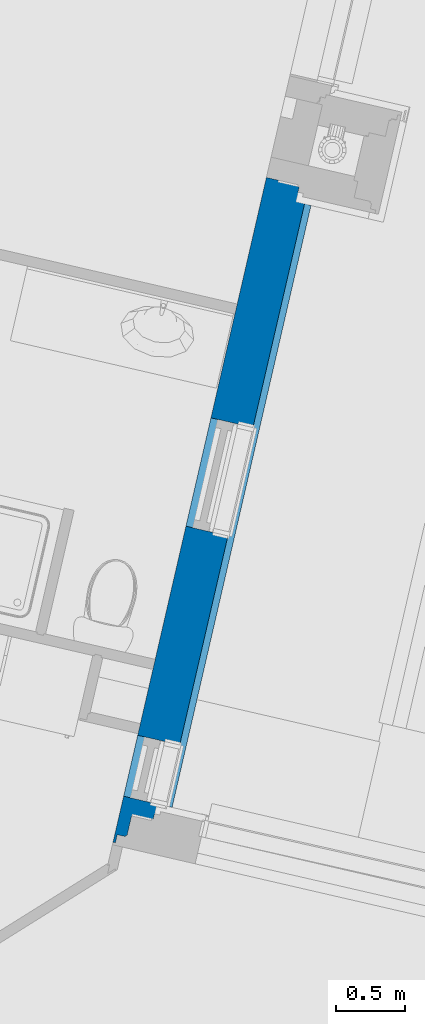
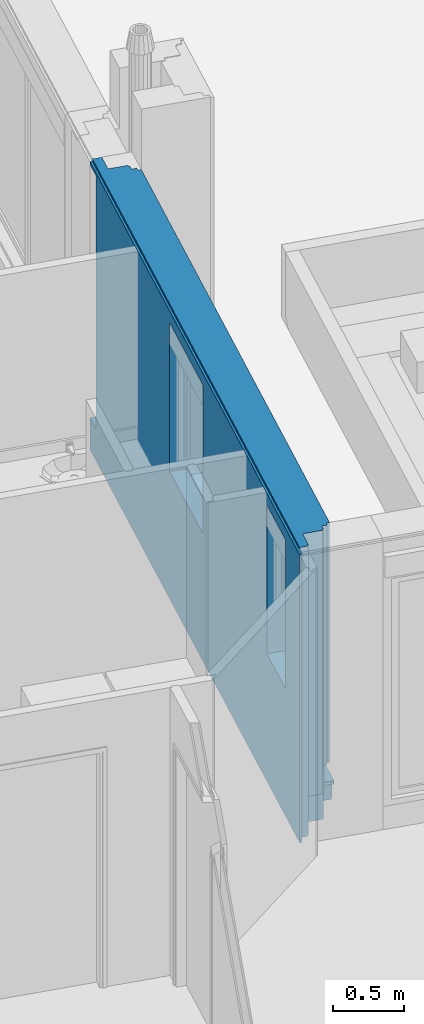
# One storey, part 11 of 47: 1 wall, 2 openings.
"""IFC2X3 building model written with IfcOpenShell, lengths in metres."""

import ifcopenshell
import ifcopenshell.guid

model = None  # the IFC model being written
_history = None  # IfcOwnerHistory: only IFC2X3 demands one
_inside = {}  # id of a spatial element -> (the spatial element, [elements in it])
_under = {}  # id of a project, library or spatial element -> (it, [spatial elements below it])
_declared = {}  # id of a project -> (the project, [libraries it declares])
_typed = {}  # id of a type object -> (the type object, [elements of that type])
_made_of = {}  # id of a material, layer set ... -> (it, [elements and type objects made of it])


def new_model(schema):
    """Start an empty IFC model of exactly this schema.

    Asked for "IFC4X3", IfcOpenShell would pick the latest addendum, in which some entities
    have other attributes; the version numbers below select the first issue.
    IFC2X3 requires an IfcOwnerHistory on every rooted entity: one is made here for all.
    """
    global model, _history
    if schema == "IFC4X3":
        model = ifcopenshell.file(schema_version=(4, 3, 0, 0))
    else:
        model = ifcopenshell.file(schema=schema)
    _inside.clear()
    _under.clear()
    _declared.clear()
    _typed.clear()
    _made_of.clear()
    _history = None
    if model.schema == "IFC2X3":
        org = make("IfcOrganization", Name="unknown")
        user = make(
            "IfcPersonAndOrganization",
            ThePerson=make("IfcPerson", FamilyName="unknown"),
            TheOrganization=org,
        )
        app = make(
            "IfcApplication",
            ApplicationDeveloper=org,
            Version="unknown",
            ApplicationFullName="unknown",
            ApplicationIdentifier="unknown",
        )
        _history = make(
            "IfcOwnerHistory",
            OwningUser=user,
            OwningApplication=app,
            ChangeAction="ADDED",
            CreationDate=0,
        )
    return model


def make(cls, **values):
    """One entity of the class cls with the attributes given. An attribute that is None is left unset."""
    return model.create_entity(
        cls, **{name: value for name, value in values.items() if value is not None}
    )


def entity(cls, *values):
    """Any entity or typed value of the class cls, its attributes in the order of the schema. None: left unset."""
    e = model.create_entity(cls)
    for i, value in enumerate(values):
        if value is not None:
            e[i] = value
    return e


def rooted(cls, **values):
    """An entity with a GlobalId (a new one), such as an element, a storey or a relation."""
    return make(cls, GlobalId=ifcopenshell.guid.new(), OwnerHistory=_history, **values)


def si_unit(unit_type, name, prefix=None):
    """IfcSIUnit, for example si_unit("LENGTHUNIT", "METRE", prefix="MILLI")."""
    return make("IfcSIUnit", UnitType=unit_type, Prefix=prefix, Name=name)


def converted_unit(unit_type, name, factor, base, dimensions=None, offset=None):
    """IfcConversionBasedUnit, such as the inch: factor (a typed value) times the base unit."""
    return make(
        "IfcConversionBasedUnit"
        if offset is None
        else "IfcConversionBasedUnitWithOffset",
        ConversionOffset=offset,
        Dimensions=None
        if dimensions is None
        else entity("IfcDimensionalExponents", *dimensions),
        UnitType=unit_type,
        Name=name,
        ConversionFactor=make(
            "IfcMeasureWithUnit", ValueComponent=factor, UnitComponent=base
        ),
    )


def derived_unit(unit_type, elements):
    """IfcDerivedUnit: a product of units, each with its exponent."""
    return make(
        "IfcDerivedUnit",
        Elements=[
            make("IfcDerivedUnitElement", Unit=unit, Exponent=power)
            for unit, power in elements
        ],
        UnitType=unit_type,
    )


def money_unit(currency):
    """IfcMonetaryUnit."""
    return make("IfcMonetaryUnit", Currency=currency)


def assignment(units):
    """IfcUnitAssignment: the units of a project."""
    return None if units is None else make("IfcUnitAssignment", Units=units)


def point(xyz):
    """IfcCartesianPoint."""
    return None if xyz is None else make("IfcCartesianPoint", Coordinates=xyz)


def direction(xyz):
    """IfcDirection."""
    return None if xyz is None else make("IfcDirection", DirectionRatios=xyz)


def frame(location, z_axis=None, x_axis=None):
    """IfcAxis2Placement3D, a coordinate frame: its origin and axes. An axis left out is left unset."""
    return make(
        "IfcAxis2Placement3D",
        Location=point(location),
        Axis=direction(z_axis),
        RefDirection=direction(x_axis),
    )


def origin_with_axes():
    """The frame at (0, 0, 0) with the z axis (0, 0, 1) and the x axis (1, 0, 0) written out."""
    return frame((0.0, 0.0, 0.0), z_axis=(0.0, 0.0, 1.0), x_axis=(1.0, 0.0, 0.0))


def place(relative_to, where):
    """IfcLocalPlacement: puts the frame where relative to a parent placement (None: the world)."""
    return make(
        "IfcLocalPlacement", PlacementRelTo=relative_to, RelativePlacement=where
    )


def context(
    kind, dimensions, precision=None, world=None, true_north=None, identifier=None
):
    """IfcGeometricRepresentationContext, for example the 3D "Model" context."""
    return make(
        "IfcGeometricRepresentationContext",
        ContextIdentifier=identifier,
        ContextType=kind,
        CoordinateSpaceDimension=dimensions,
        Precision=precision,
        WorldCoordinateSystem=world,
        TrueNorth=true_north,
    )


def subcontext(parent, identifier, kind, view, scale=None):
    """IfcGeometricRepresentationSubContext, for example "Body" below "Model"."""
    return make(
        "IfcGeometricRepresentationSubContext",
        ContextIdentifier=identifier,
        ContextType=kind,
        ParentContext=parent,
        TargetScale=scale,
        TargetView=view,
    )


def project(units=None, contexts=None):
    """IfcProject with its units and contexts."""
    return rooted(
        "IfcProject",
        Name="project",
        RepresentationContexts=contexts,
        UnitsInContext=assignment(units),
    )


def spatial(cls, under=None, at=None, **own):
    """A site, building, storey or space (cls), placed at a placement, below another one or the project."""
    s = rooted(cls, ObjectPlacement=at, **own)
    if under is not None:
        _under.setdefault(under.id(), (under, []))[1].append(s)
    return s


def faces_of(points, faces, orient=None, outer=None):
    """IfcFace entities. A face is a list of loops; a loop is a list of indices into points, from 0.

    orient and outer hold one flag for each loop. By default every Orientation is true, the
    first loop of a face is its IfcFaceOuterBound and the others are IfcFaceBound.
    """
    made = []
    for i, loops in enumerate(faces):
        bounds = []
        for j, loop in enumerate(loops):
            is_outer = j == 0 if outer is None else outer[i][j]
            bounds.append(
                make(
                    "IfcFaceOuterBound" if is_outer else "IfcFaceBound",
                    Bound=make("IfcPolyLoop", Polygon=[points[k] for k in loop]),
                    Orientation=True if orient is None else orient[i][j],
                )
            )
        made.append(make("IfcFace", Bounds=bounds))
    return made


def faceted_brep(points, faces, orient=None, outer=None, voids=None):
    """IfcFacetedBrep: a solid bounded by flat faces; with voids (closed shells), ...WithVoids."""
    shared = [point(p) for p in points]
    hull = make("IfcClosedShell", CfsFaces=faces_of(shared, faces, orient, outer))
    if voids is None:
        return make("IfcFacetedBrep", Outer=hull)
    return make(
        "IfcFacetedBrepWithVoids",
        Outer=hull,
        Voids=[
            make(cls, CfsFaces=faces_of(shared, fs, o, b)) for cls, fs, o, b in voids
        ],
    )


def shape(context_of_items, identifier, shape_type, items):
    """IfcShapeRepresentation: the items that make up one representation, for example the "Body"."""
    return make(
        "IfcShapeRepresentation",
        ContextOfItems=context_of_items,
        RepresentationIdentifier=identifier,
        RepresentationType=shape_type,
        Items=items,
    )


def material(Name=None, Category=None):
    """IfcMaterial."""
    return make("IfcMaterial", Name=Name, Category=Category)


def material_list(materials):
    """IfcMaterialList."""
    return make("IfcMaterialList", Materials=materials)


def made_of(thing, what):
    """Note that an element or type object is made of a material, layer set ...; save() writes the relation."""
    if what is not None:
        _made_of.setdefault(what.id(), (what, []))[1].append(thing)
    return thing


def type_object(cls, material=None, **own):
    """A type object (cls), such as IfcWallType, which elements share."""
    return made_of(rooted(cls, **own), material)


def element(
    cls,
    number,
    at=None,
    inside=None,
    cuts=None,
    type_object=None,
    material=None,
    context=None,
    identifier="Body",
    shape_type=None,
    held_by="IfcProductDefinitionShape",
    body=None,
    shapes=None,
    **own,
):
    """One element of the class cls, such as IfcWall. Its Tag is "e" and its number.

    at: its placement. inside: the storey or other place that contains it. cuts: it is an
    opening in that element (IfcRelVoidsElement). A single representation is given by context,
    identifier, shape_type and body (its items); several are given by shapes. held_by: the class
    of the entity that holds the representations. save() writes the other relations.
    """
    e = rooted(cls, Tag="e%d" % number, ObjectPlacement=at, **own)
    if body is not None:
        shapes = [shape(context, identifier, shape_type, body)]
    if shapes is not None:
        e.Representation = make(held_by, Representations=shapes)
    if inside is not None:
        _inside.setdefault(inside.id(), (inside, []))[1].append(e)
    if cuts is not None:
        rooted(
            "IfcRelVoidsElement", RelatingBuildingElement=cuts, RelatedOpeningElement=e
        )
    if type_object is not None:
        _typed.setdefault(type_object.id(), (type_object, []))[1].append(e)
    return made_of(e, material)


def aggregate(whole, parts):
    """IfcRelAggregates: a whole, such as a stair, and the parts it consists of."""
    return rooted("IfcRelAggregates", RelatingObject=whole, RelatedObjects=parts)


def save(model, path):
    """Write the relations noted so far, then the file.

    IfcRelAggregates (storeys below a building ...), IfcRelContainedInSpatialStructure (elements
    in a storey), IfcRelDefinesByType, IfcRelAssociatesMaterial and IfcRelDeclares: one each for
    every whole, place, type object, material and project.
    """
    for whole, parts in _under.values():
        aggregate(whole, parts)
    for where, things in _inside.values():
        rooted(
            "IfcRelContainedInSpatialStructure",
            RelatedElements=things,
            RelatingStructure=where,
        )
    for kind, things in _typed.values():
        rooted("IfcRelDefinesByType", RelatedObjects=things, RelatingType=kind)
    for what, things in _made_of.values():
        rooted("IfcRelAssociatesMaterial", RelatedObjects=things, RelatingMaterial=what)
    for by, libraries in _declared.values():
        rooted("IfcRelDeclares", RelatingContext=by, RelatedDefinitions=libraries)
    model.write(path)


model = new_model("IFC2X3")

# Units and contexts
model_context = context("Model", 3, precision=1e-05, world=origin_with_axes(), true_north=direction((0.0, 1.0)))
body_context = subcontext(model_context, "Body", "Model", "MODEL_VIEW")
ifc_project = project(units=[si_unit("LENGTHUNIT", "METRE"), si_unit("AREAUNIT", "SQUARE_METRE"), si_unit("VOLUMEUNIT", "CUBIC_METRE"), converted_unit("PLANEANGLEUNIT", "DEGREE", entity("IfcPlaneAngleMeasure", 0.0174532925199), si_unit("PLANEANGLEUNIT", "RADIAN"), dimensions=[0, 0, 0, 0, 0, 0, 0]), si_unit("SOLIDANGLEUNIT", "STERADIAN"), money_unit("EUR"), converted_unit("TIMEUNIT", "Year", entity("IfcTimeMeasure", 31556926.0), si_unit("TIMEUNIT", "SECOND"), dimensions=[0, 0, 1, 0, 0, 0, 0]), si_unit("MASSUNIT", "GRAM", prefix="KILO"), si_unit("THERMODYNAMICTEMPERATUREUNIT", "DEGREE_CELSIUS"), si_unit("LUMINOUSINTENSITYUNIT", "LUMEN"), si_unit("ENERGYUNIT", "JOULE", prefix="MEGA"), derived_unit("THERMALCONDUCTANCEUNIT", [(si_unit("POWERUNIT", "WATT"), 1), (si_unit("LENGTHUNIT", "METRE"), -1), (si_unit("THERMODYNAMICTEMPERATUREUNIT", "KELVIN"), -1)]), derived_unit("SPECIFICHEATCAPACITYUNIT", [(si_unit("ENERGYUNIT", "JOULE"), 1), (si_unit("MASSUNIT", "GRAM", prefix="KILO"), -1), (si_unit("THERMODYNAMICTEMPERATUREUNIT", "KELVIN"), -1)]), derived_unit("MASSDENSITYUNIT", [(si_unit("MASSUNIT", "GRAM", prefix="KILO"), 1), (si_unit("VOLUMEUNIT", "CUBIC_METRE"), -1)])], contexts=[model_context])

# Site, building, storey
site_placement = place(None, origin_with_axes())
site = spatial("IfcSite", under=ifc_project, at=site_placement, Name="Site", CompositionType="ELEMENT")
building_placement = place(site_placement, origin_with_axes())
building = spatial("IfcBuilding", under=site, at=building_placement, Name="Bâtiment", CompositionType="ELEMENT")
storey_placement = place(building_placement, frame((0.0, 0.0, 10.88), z_axis=(0.0, 0.0, 1.0), x_axis=(1.0, 0.0, 0.0)))
storey = spatial("IfcBuildingStorey", under=building, at=storey_placement, Name="R+4", CompositionType="ELEMENT", Elevation=10.88)

# Wall, openings
ifc_material_1 = material(Name="Métal - Aluminium")
ifc_material_2 = material(Name="Etanchéité - Bitume")
ifc_material_3 = material(Name="Isolation - Polyuréthane (extérieur)")
ifc_material_4 = material(Name="Finition ext - Bardage bois")
ifc_material_5 = material(Name="Bois - Lattage")
ifc_material_6 = material(Name="Bois - OSB 02")
ifc_material_7 = material(Name="Béton")
ifc_material_8 = material(Name="Isolation - Laine de verre")
ifc_material_9 = material(Name="Bois - Massif 01")
ifc_material_10 = material(Name="Etanchéité - Pare-vapeur")
ifc_material_11 = material(Name="Finition int - Plaque de plâtre")
ifc_material_list = material_list([ifc_material_1, ifc_material_2, ifc_material_3, ifc_material_4, ifc_material_5, ifc_material_6, ifc_material_7, ifc_material_8, ifc_material_9, ifc_material_9, ifc_material_10, ifc_material_8, ifc_material_11])
wall_type = type_object("IfcWallType", Name="Mur ossature Bois avec talon béton 358 x 2500", PredefinedType="ELEMENTEDWALL")
wall_placement = place(storey_placement, frame((-13.1674751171, -3.57101236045, 0.02), z_axis=(0.0, 0.0, 1.0), x_axis=(-0.224876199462, -0.974387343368, 0.0)))
wall = element("IfcWall", 1, at=wall_placement, inside=storey, type_object=wall_type, material=ifc_material_list, Name="M_Ext-009", ObjectType="ELEMENTEDWALL", context=body_context, shape_type="Brep", body=[
    faceted_brep([(4.60014335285, -0.065, 0.435), (4.60014335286, -0.06, 0.435), (-0.0599999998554, -0.06, 0.435), (-0.0599999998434, -0.065, 0.435), (4.60014335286, -0.06, 0.275), (4.60014335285, -0.065, 0.275), (4.60014335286, -0.06, 0.235), (4.49214335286, -0.06, 0.235), (0.0480000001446, -0.06, 0.2350000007), (-0.0599999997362, -0.06, 0.2350000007), (-0.0599999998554, -0.06, 0.275), (-0.0599999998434, -0.065, 0.275), (-0.0599999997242, -0.065, 0.2350000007), (0.0480000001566, -0.065, 0.2350000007), (0.0480000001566, -0.065, 0.22999999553), (4.49214335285, -0.065, 0.23), (4.49214335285, -0.065, 0.235), (4.60014335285, -0.065, 0.235), (4.4921433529, 0.048, 0.235), (0.0479999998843, 0.048, 0.2350000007), (0.0479999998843, 0.048, 0.22999999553), (0.0479999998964, 0.043, 0.22999999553), (0.0479999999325, 0.0279999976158, 0.22999999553), (4.49214335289, 0.0279999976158, 0.23), (4.4921433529, 0.048, 0.23), (4.49214335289, 0.043, 0.23), (4.4921433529, 0.048, 0.2), (0.0479999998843, 0.048, 0.2), (0.0479999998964, 0.043, 0.2), (4.49214335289, 0.043, 0.2)], [[[0, 1, 2, 3]], [[4, 1, 0, 5]], [[1, 4, 6, 7, 8, 9, 10, 2]], [[3, 2, 10, 11]], [[5, 0, 3, 11, 12, 13, 14, 15, 16, 17]], [[4, 5, 17, 6]], [[7, 6, 17, 16]], [[7, 18, 19, 8]], [[9, 8, 13, 12]], [[11, 10, 9, 12]], [[8, 19, 20, 21, 22, 14, 13]], [[23, 15, 14, 22]], [[24, 18, 7, 16, 15, 23, 25]], [[18, 24, 26, 27, 20, 19]], [[21, 20, 27, 28]], [[25, 23, 22, 21]], [[24, 25, 29, 26]], [[26, 29, 28, 27]], [[29, 25, 21, 28]]]),
    faceted_brep([(4.51214335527, 0.0279999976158, 0.109999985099), (0.0279999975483, 0.0279999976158, 0.109999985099), (0.0279999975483, 0.0279999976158, 0.230000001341), (4.51214335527, 0.0279999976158, 0.230000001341), (0.0279999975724, 0.0180000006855, 0.109999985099), (4.51214335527, 0.0180000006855, 0.109999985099), (0.0279999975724, 0.0180000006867, 0.230000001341), (4.51214335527, 0.0180000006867, 0.230000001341)], [[[0, 1, 2, 3]], [[4, 1, 0, 5]], [[1, 4, 6, 2]], [[6, 7, 3, 2]], [[5, 0, 3, 7]], [[4, 5, 7, 6]]]),
    faceted_brep([(4.5221433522, 0.0180000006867, 0.0999999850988), (0.0180000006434, 0.0180000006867, 0.0999999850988), (0.0180000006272, 0.0180000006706, 0.230000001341), (4.52214335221, 0.0180000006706, 0.230000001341), (0.0180000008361, -0.0619999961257, 0.0999999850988), (4.52214335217, -0.0619999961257, 0.0999999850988), (0.0180000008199, -0.0619999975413, 0.230000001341), (4.52214335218, -0.0619999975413, 0.230000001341)], [[[0, 1, 2, 3]], [[4, 1, 0, 5]], [[1, 4, 6, 2]], [[6, 7, 3, 2]], [[5, 0, 3, 7]], [[4, 5, 7, 6]]]),
    faceted_brep([(1.69817306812, -0.025, 1.1), (1.69817306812, -0.025, 1.04), (1.69817306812, 0.0, 1.04), (1.69817306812, 0.0, 1.1), (1.69817306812, 0.0, 2.2), (1.69817306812, -0.025, 2.2), (4.54014335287, -0.025, 2.5), (0.0, -0.025, 2.5), (0.0, -0.025, 0.435), (4.54014335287, -0.025, 0.435), (4.04214336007, -0.025, 1.04), (4.04214336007, -0.025, 1.1), (4.04214336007, -0.025, 2.2), (4.49214336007, -0.025, 2.2), (4.49214336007, -0.025, 1.1), (4.49214336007, -0.025, 1.04), (2.49817306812, -0.025, 2.2), (2.49817306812, -0.025, 1.1), (2.49817306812, -0.025, 1.04), (2.49817306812, 0.0, 1.04), (4.54014335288, 0.0, 0.435), (0.0, 0.0, 0.435), (0.0, 0.0, 2.5), (4.54014335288, 0.0, 2.5), (4.49214336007, 0.0, 1.04), (4.49214336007, 0.0, 1.1), (4.49214336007, 0.0, 2.2), (4.04214336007, 0.0, 2.2), (4.04214336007, 0.0, 1.1), (4.04214336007, 0.0, 1.04), (2.49817306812, 0.0, 1.1), (2.49817306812, 0.0, 2.2)], [[[0, 1, 2, 3, 4, 5]], [[6, 7, 8, 9], [10, 11, 12, 13, 14, 15], [1, 0, 5, 16, 17, 18]], [[19, 2, 1, 18]], [[20, 21, 22, 23], [24, 25, 26, 27, 28, 29], [19, 30, 31, 4, 3, 2]], [[31, 16, 5, 4]], [[6, 23, 22, 7]], [[22, 21, 8, 7]], [[20, 9, 8, 21]], [[23, 6, 9, 20]], [[11, 10, 29, 28, 27, 12]], [[12, 27, 26, 13]], [[25, 24, 15, 14, 13, 26]], [[10, 15, 24, 29]], [[30, 19, 18, 17, 16, 31]]]),
    faceted_brep([(1.69817306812, -0.0649999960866, 1.1), (1.69817306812, -0.0649999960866, 1.04), (1.69817306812, -0.024999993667, 1.04), (1.69817306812, -0.024999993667, 1.1), (1.69817306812, -0.024999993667, 2.2), (1.69817306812, -0.0649999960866, 2.2), (4.56514334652, -0.0649999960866, 2.5), (-0.0249999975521, -0.0649999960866, 2.5), (-0.0250000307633, -0.0649999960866, 0.434999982), (4.56514334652, -0.0649999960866, 0.435000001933), (4.04214336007, -0.0649999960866, 1.04), (4.04214336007, -0.0649999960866, 1.1), (4.04214336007, -0.0649999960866, 2.2), (4.49214336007, -0.0649999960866, 2.2), (4.49214336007, -0.0649999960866, 1.1), (4.49214336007, -0.0649999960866, 1.04), (2.49817306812, -0.0649999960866, 2.2), (2.49817306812, -0.0649999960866, 1.1), (2.49817306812, -0.0649999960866, 1.04), (2.49817306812, -0.024999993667, 1.04), (4.56514334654, -0.024999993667, 0.435000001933), (-0.0250000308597, -0.024999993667, 0.434999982), (-0.0249999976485, -0.024999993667, 2.5), (4.56514334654, -0.024999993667, 2.5), (4.49214336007, -0.024999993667, 1.04), (4.49214336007, -0.024999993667, 1.1), (4.49214336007, -0.024999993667, 2.2), (4.04214336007, -0.024999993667, 2.2), (4.04214336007, -0.024999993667, 1.1), (4.04214336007, -0.024999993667, 1.04), (2.49817306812, -0.024999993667, 1.1), (2.49817306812, -0.024999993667, 2.2), (-0.0250000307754, -0.0600000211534, 0.434999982), (4.56514334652, -0.0600000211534, 0.435000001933)], [[[0, 1, 2, 3, 4, 5]], [[6, 7, 8, 9], [10, 11, 12, 13, 14, 15], [1, 0, 5, 16, 17, 18]], [[19, 2, 1, 18]], [[20, 21, 22, 23], [24, 25, 26, 27, 28, 29], [19, 30, 31, 4, 3, 2]], [[31, 16, 5, 4]], [[6, 23, 22, 7]], [[21, 32, 8, 7, 22]], [[8, 32, 33, 9]], [[33, 20, 23, 6, 9]], [[11, 10, 29, 28, 27, 12]], [[12, 27, 26, 13]], [[25, 24, 15, 14, 13, 26]], [[10, 15, 24, 29]], [[30, 19, 18, 17, 16, 31]], [[32, 21, 20, 33]]]),
    faceted_brep([(1.69817306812, -0.0770000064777, 1.1), (1.69817306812, -0.0770000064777, 1.04), (1.69817306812, -0.065000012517, 1.04), (1.69817306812, -0.065000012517, 1.1), (1.69817306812, -0.065000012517, 2.2), (1.69817306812, -0.0770000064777, 2.2), (-0.0650000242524, -0.0770000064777, 0.22999999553), (4.60514336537, -0.0770000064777, 0.230000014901), (4.60514336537, -0.0770000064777, 2.5), (-0.0649999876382, -0.0770000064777, 2.5), (4.04214336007, -0.0770000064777, 1.04), (4.04214336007, -0.0770000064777, 1.1), (4.04214336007, -0.0770000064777, 2.2), (4.49214336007, -0.0770000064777, 2.2), (4.49214336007, -0.0770000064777, 1.1), (4.49214336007, -0.0770000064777, 1.04), (2.49817306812, -0.0770000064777, 2.2), (2.49817306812, -0.0770000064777, 1.1), (2.49817306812, -0.0770000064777, 1.04), (2.49817306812, -0.065000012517, 1.04), (4.60514336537, -0.065000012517, 0.230000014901), (-0.0650000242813, -0.065000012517, 0.22999999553), (-0.0649999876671, -0.065000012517, 2.5), (4.60514336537, -0.065000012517, 2.5), (4.49214336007, -0.065000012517, 1.04), (4.49214336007, -0.065000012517, 1.1), (4.49214336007, -0.065000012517, 2.2), (4.04214336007, -0.065000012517, 2.2), (4.04214336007, -0.065000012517, 1.1), (4.04214336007, -0.065000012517, 1.04), (2.49817306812, -0.065000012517, 1.1), (2.49817306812, -0.065000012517, 2.2)], [[[0, 1, 2, 3, 4, 5]], [[6, 7, 8, 9], [10, 11, 12, 13, 14, 15], [1, 0, 5, 16, 17, 18]], [[19, 2, 1, 18]], [[20, 21, 22, 23], [24, 25, 26, 27, 28, 29], [19, 30, 31, 4, 3, 2]], [[31, 16, 5, 4]], [[20, 7, 6, 21]], [[23, 8, 7, 20]], [[8, 23, 22, 9]], [[9, 22, 21, 6]], [[11, 10, 29, 28, 27, 12]], [[12, 27, 26, 13]], [[25, 24, 15, 14, 13, 26]], [[10, 15, 24, 29]], [[30, 19, 18, 17, 16, 31]]]),
    faceted_brep([(-0.0619999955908, -0.222000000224, 0.23), (4.60214334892, -0.222000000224, 0.23), (4.60214334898, -0.0619999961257, 0.23), (-0.0619999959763, -0.0619999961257, 0.23), (4.60214334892, -0.222000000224, 0.0), (-0.0619999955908, -0.222000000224, 0.0), (4.60214334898, -0.0619999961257, 0.0), (-0.0619999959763, -0.0619999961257, 0.0)], [[[0, 1, 2, 3]], [[4, 1, 0, 5]], [[6, 2, 1, 4]], [[3, 2, 6, 7]], [[5, 0, 3, 7]], [[7, 6, 4, 5]]]),
    faceted_brep([(1.69817306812, -0.183, 1.1), (1.69817306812, -0.183, 1.04), (1.69817306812, -0.077, 1.04), (1.69817306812, -0.077, 1.1), (1.69817306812, -0.077, 2.2), (1.69817306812, -0.112, 2.2), (1.69817306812, -0.112, 2.38), (1.69817306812, -0.221999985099, 2.38), (1.69817306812, -0.221999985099, 2.2), (1.69817306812, -0.221999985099, 1.1), (2.49817306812, -0.183, 1.1), (2.49817306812, -0.183, 1.04), (2.49817306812, -0.077, 1.04), (4.61714335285, -0.077, 0.275), (-0.0769999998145, -0.077, 0.275), (-0.0769999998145, -0.077, 2.45499997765), (4.61714335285, -0.077, 2.45499997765), (4.49214336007, -0.077, 1.04), (4.49214336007, -0.077, 1.1), (4.49214336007, -0.077, 2.2), (4.04214336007, -0.077, 2.2), (4.04214336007, -0.077, 1.1), (4.04214336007, -0.077, 1.04), (2.49817306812, -0.077, 1.1), (2.49817306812, -0.077, 2.2), (2.49817306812, -0.112, 2.2), (2.49817306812, -0.112, 2.38), (2.49817306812, -0.221999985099, 2.38), (4.61714335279, -0.221999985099, 2.45499997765), (-0.0769999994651, -0.221999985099, 2.45499997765), (-0.0769999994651, -0.221999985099, 0.275), (4.61714335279, -0.221999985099, 0.275), (4.04214336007, -0.221999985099, 1.1), (4.04214336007, -0.221999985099, 2.2), (4.04214336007, -0.221999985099, 2.38), (4.49214336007, -0.221999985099, 2.38), (4.49214336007, -0.221999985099, 2.2), (4.49214336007, -0.221999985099, 1.1), (2.49817306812, -0.221999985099, 2.2), (2.49817306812, -0.221999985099, 1.1), (4.49214336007, -0.112, 2.2), (4.49214336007, -0.183, 1.04), (4.49214336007, -0.183, 1.1), (4.49214336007, -0.112, 2.38), (4.04214336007, -0.112, 2.2), (4.04214336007, -0.183, 1.1), (4.04214336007, -0.183, 1.04), (4.04214336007, -0.112, 2.38)], [[[0, 1, 2, 3, 4, 5, 6, 7, 8, 9]], [[0, 10, 11, 1]], [[12, 2, 1, 11]], [[13, 14, 15, 16], [17, 18, 19, 20, 21, 22], [12, 23, 24, 4, 3, 2]], [[5, 4, 24, 25]], [[25, 26, 6, 5]], [[7, 6, 26, 27]], [[28, 29, 30, 31], [32, 33, 34, 35, 36, 37], [9, 8, 7, 27, 38, 39]], [[10, 0, 9, 39]], [[23, 12, 11, 10, 39, 38, 27, 26, 25, 24]], [[13, 31, 30, 14]], [[29, 15, 14, 30]], [[28, 16, 15, 29]], [[16, 28, 31, 13]], [[40, 19, 18, 17, 41, 42, 37, 36, 35, 43]], [[44, 20, 19, 40]], [[33, 32, 45, 46, 22, 21, 20, 44, 47, 34]], [[17, 22, 46, 41]], [[34, 47, 43, 35]], [[42, 45, 32, 37]], [[45, 42, 41, 46]], [[40, 43, 47, 44]]]),
    faceted_brep([(4.61714335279, -0.222, 0.275), (4.61714335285, -0.077, 0.275), (-0.0769999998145, -0.077, 0.275), (-0.0769999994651, -0.222, 0.275), (4.61714335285, -0.077, 0.23), (4.61714335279, -0.222, 0.23), (-0.0769999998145, -0.077, 0.23), (-0.0769999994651, -0.222, 0.23)], [[[0, 1, 2, 3]], [[4, 1, 0, 5]], [[1, 4, 6, 2]], [[3, 2, 6, 7]], [[5, 0, 3, 7]], [[4, 5, 7, 6]]]),
    faceted_brep([(4.61714335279, -0.222, 2.5), (4.61714335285, -0.077, 2.5), (-0.0769999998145, -0.077, 2.5), (-0.0769999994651, -0.222, 2.5), (4.61714335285, -0.077, 2.455), (4.61714335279, -0.222, 2.455), (-0.0769999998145, -0.077, 2.45499997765), (-0.0769999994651, -0.222, 2.45499997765)], [[[0, 1, 2, 3]], [[4, 1, 0, 5]], [[1, 4, 6, 2]], [[3, 2, 6, 7]], [[5, 0, 3, 7]], [[4, 5, 7, 6]]]),
    faceted_brep([(-0.0769999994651, -0.221999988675, 2.45499997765), (-0.226999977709, -0.221999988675, 2.45499997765), (-0.226999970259, -0.221999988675, 2.5), (4.76214334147, -0.221999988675, 2.5), (4.76214334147, -0.221999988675, 0.0), (-0.221999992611, -0.221999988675, 0.0), (-0.221999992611, -0.221999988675, 0.229999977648), (-0.226999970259, -0.221999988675, 0.229999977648), (-0.226999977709, -0.221999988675, 0.275), (-0.0769999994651, -0.221999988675, 0.275), (4.49214336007, -0.221999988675, 2.2), (4.49214336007, -0.221999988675, 2.38), (4.04214336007, -0.221999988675, 2.38), (4.04214336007, -0.221999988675, 2.2), (4.04214336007, -0.221999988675, 1.1), (4.49214336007, -0.221999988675, 1.1), (2.49817306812, -0.221999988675, 2.2), (2.49817306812, -0.221999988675, 2.38), (1.69817306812, -0.221999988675, 2.38), (1.69817306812, -0.221999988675, 2.2), (1.69817306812, -0.221999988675, 1.1), (2.49817306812, -0.221999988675, 1.1), (-0.076999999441, -0.232000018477, 2.45499997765), (-0.226999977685, -0.232000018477, 2.45499997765), (-0.226999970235, -0.232000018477, 2.5), (4.76214334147, -0.232000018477, 2.5), (4.76214334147, -0.232000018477, 0.0), (-0.221999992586, -0.232000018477, 0.0), (-0.221999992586, -0.232000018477, 0.229999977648), (-0.226999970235, -0.232000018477, 0.229999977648), (-0.226999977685, -0.232000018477, 0.275), (-0.076999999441, -0.232000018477, 0.275), (4.49214336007, -0.232000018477, 2.2), (4.49214336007, -0.232000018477, 2.38), (4.04214336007, -0.232000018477, 2.38), (4.04214336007, -0.232000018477, 2.2), (4.04214336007, -0.232000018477, 1.1), (4.49214336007, -0.232000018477, 1.1), (2.49817306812, -0.232000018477, 2.2), (2.49817306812, -0.232000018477, 2.38), (1.69817306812, -0.232000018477, 2.38), (1.69817306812, -0.232000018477, 2.2), (1.69817306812, -0.232000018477, 1.1), (2.49817306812, -0.232000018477, 1.1)], [[[0, 1, 2, 3, 4, 5, 6, 7, 8, 9], [10, 11, 12, 13, 14, 15], [16, 17, 18, 19, 20, 21]], [[1, 0, 22, 23]], [[2, 1, 23, 24]], [[24, 25, 3, 2]], [[4, 3, 25, 26]], [[5, 4, 26, 27]], [[27, 28, 6, 5]], [[28, 29, 7, 6]], [[29, 30, 8, 7]], [[30, 31, 9, 8]], [[31, 22, 0, 9]], [[32, 33, 11, 10]], [[33, 34, 12, 11]], [[34, 35, 13, 12]], [[36, 14, 13, 35]], [[37, 15, 14, 36]], [[15, 37, 32, 10]], [[17, 16, 38, 39]], [[18, 17, 39, 40]], [[19, 18, 40, 41]], [[19, 41, 42, 20]], [[20, 42, 43, 21]], [[38, 16, 21, 43]], [[27, 26, 25, 24, 23, 22, 31, 30, 29, 28], [33, 32, 37, 36, 35, 34], [39, 38, 43, 42, 41, 40]]]),
    faceted_brep([(-0.076999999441, -0.232000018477, 2.45499997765), (-0.226999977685, -0.232000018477, 2.45499997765), (-0.226999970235, -0.232000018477, 2.5), (4.77214337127, -0.232000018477, 2.5), (4.77214337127, -0.232000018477, 0.0), (-0.221999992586, -0.232000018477, 0.0), (-0.221999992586, -0.232000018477, 0.229999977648), (-0.226999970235, -0.232000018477, 0.229999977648), (-0.226999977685, -0.232000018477, 0.275), (-0.076999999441, -0.232000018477, 0.275), (4.49214336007, -0.232000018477, 2.2), (4.49214336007, -0.232000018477, 2.38), (4.04214336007, -0.232000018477, 2.38), (4.04214336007, -0.232000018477, 2.2), (4.04214336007, -0.232000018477, 1.1), (4.49214336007, -0.232000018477, 1.1), (2.49817306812, -0.232000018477, 2.2), (2.49817306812, -0.232000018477, 2.38), (1.69817306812, -0.232000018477, 2.38), (1.69817306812, -0.232000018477, 2.2), (1.69817306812, -0.232000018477, 1.1), (2.49817306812, -0.232000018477, 1.1), (-0.0769999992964, -0.292000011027, 2.45499997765), (-0.226999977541, -0.292000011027, 2.45499997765), (-0.22699997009, -0.292000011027, 2.5), (4.77214337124, -0.292000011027, 2.5), (4.77214337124, -0.292000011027, 0.0), (-0.221999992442, -0.292000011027, 0.0), (-0.221999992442, -0.292000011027, 0.229999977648), (-0.22699997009, -0.292000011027, 0.229999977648), (-0.226999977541, -0.292000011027, 0.275), (-0.0769999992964, -0.292000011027, 0.275), (4.49214336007, -0.292000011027, 2.2), (4.49214336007, -0.292000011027, 2.38), (4.04214336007, -0.292000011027, 2.38), (4.04214336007, -0.292000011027, 2.2), (4.04214336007, -0.292000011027, 1.1), (4.49214336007, -0.292000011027, 1.1), (2.49817306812, -0.292000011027, 2.2), (2.49817306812, -0.292000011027, 2.38), (1.69817306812, -0.292000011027, 2.38), (1.69817306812, -0.292000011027, 2.2), (1.69817306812, -0.292000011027, 1.1), (2.49817306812, -0.292000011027, 1.1)], [[[0, 1, 2, 3, 4, 5, 6, 7, 8, 9], [10, 11, 12, 13, 14, 15], [16, 17, 18, 19, 20, 21]], [[1, 0, 22, 23]], [[2, 1, 23, 24]], [[24, 25, 3, 2]], [[4, 3, 25, 26]], [[5, 4, 26, 27]], [[27, 28, 6, 5]], [[28, 29, 7, 6]], [[29, 30, 8, 7]], [[30, 31, 9, 8]], [[31, 22, 0, 9]], [[32, 33, 11, 10]], [[33, 34, 12, 11]], [[34, 35, 13, 12]], [[36, 14, 13, 35]], [[37, 15, 14, 36]], [[15, 37, 32, 10]], [[17, 16, 38, 39]], [[18, 17, 39, 40]], [[19, 18, 40, 41]], [[19, 41, 42, 20]], [[20, 42, 43, 21]], [[38, 16, 21, 43]], [[27, 26, 25, 24, 23, 22, 31, 30, 29, 28], [33, 32, 37, 36, 35, 34], [39, 38, 43, 42, 41, 40]]]),
    faceted_brep([(-0.226999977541, -0.292000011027, 2.45499997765), (-0.226999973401, -0.292000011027, 2.48), (4.83214336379, -0.292000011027, 2.48), (4.83214336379, -0.292000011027, 0.0), (-0.221999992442, -0.292000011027, 0.0), (-0.221999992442, -0.292000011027, 0.229999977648), (-0.22699997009, -0.292000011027, 0.229999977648), (-0.226999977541, -0.292000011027, 0.275), (-0.0769999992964, -0.292000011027, 0.275), (-0.0769999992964, -0.292000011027, 2.45499997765), (4.49214336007, -0.292000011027, 2.2), (4.49214336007, -0.292000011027, 2.38), (4.04214336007, -0.292000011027, 2.38), (4.04214336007, -0.292000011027, 2.2), (4.04214336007, -0.292000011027, 1.1), (4.49214336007, -0.292000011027, 1.1), (2.49817306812, -0.292000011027, 2.2), (2.49817306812, -0.292000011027, 2.38), (1.69817306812, -0.292000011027, 2.38), (1.69817306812, -0.292000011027, 2.2), (1.69817306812, -0.292000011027, 1.1), (2.49817306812, -0.292000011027, 1.1), (-0.226999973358, -0.309999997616, 2.48), (-0.226999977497, -0.309999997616, 2.45499997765), (4.83214336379, -0.309999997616, 2.48), (4.83214336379, -0.309999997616, 0.0), (-0.221999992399, -0.309999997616, 0.0), (-0.221999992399, -0.309999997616, 0.229999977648), (-0.226999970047, -0.309999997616, 0.229999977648), (-0.226999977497, -0.309999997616, 0.275), (-0.0769999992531, -0.309999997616, 0.275), (-0.0769999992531, -0.309999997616, 2.45499997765), (4.49214336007, -0.309999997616, 2.2), (4.49214336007, -0.309999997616, 2.38), (4.04214336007, -0.309999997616, 2.38), (4.04214336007, -0.309999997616, 2.2), (4.04214336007, -0.309999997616, 1.1), (4.49214336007, -0.309999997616, 1.1), (2.49817306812, -0.309999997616, 2.2), (2.49817306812, -0.309999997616, 2.38), (1.69817306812, -0.309999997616, 2.38), (1.69817306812, -0.309999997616, 2.2), (1.69817306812, -0.309999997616, 1.1), (2.49817306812, -0.309999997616, 1.1)], [[[0, 1, 2, 3, 4, 5, 6, 7, 8, 9], [10, 11, 12, 13, 14, 15], [16, 17, 18, 19, 20, 21]], [[22, 1, 0, 23]], [[1, 22, 24, 2]], [[2, 24, 25, 3]], [[4, 3, 25, 26]], [[26, 27, 5, 4]], [[27, 28, 6, 5]], [[28, 29, 7, 6]], [[29, 30, 8, 7]], [[30, 31, 9, 8]], [[0, 9, 31, 23]], [[32, 33, 11, 10]], [[33, 34, 12, 11]], [[34, 35, 13, 12]], [[36, 14, 13, 35]], [[37, 15, 14, 36]], [[15, 37, 32, 10]], [[17, 16, 38, 39]], [[18, 17, 39, 40]], [[19, 18, 40, 41]], [[19, 41, 42, 20]], [[20, 42, 43, 21]], [[38, 16, 21, 43]], [[26, 25, 24, 22, 23, 31, 30, 29, 28, 27], [33, 32, 37, 36, 35, 34], [39, 38, 43, 42, 41, 40]]]),
])
opening_1_placement = place(wall_placement, frame((4.26714336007, 0.0, 1.1), z_axis=(0.0, 0.0, 1.0), x_axis=(1.0, 0.0, 0.0)))
element("IfcOpeningElement", 2, at=opening_1_placement, cuts=wall, Name="MEN 133", context=body_context, shape_type="Brep", body=[
    faceted_brep([(-0.225, -0.142, 0.0), (0.225, -0.142, 0.0), (0.225, -0.689999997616, 0.0), (-0.225, -0.689999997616, 0.0), (-0.225, -0.142, 1.1), (0.225, -0.142, 1.1), (0.225, -0.689999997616, 1.1), (-0.225, -0.689999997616, 1.1)], [[[0, 1, 2, 3]], [[0, 4, 5, 1]], [[1, 5, 6, 2]], [[3, 2, 6, 7]], [[4, 0, 3, 7]], [[5, 4, 7, 6]]]),
    faceted_brep([(-0.225, -0.142, 0.0), (-0.225, -0.142, 1.1), (-0.225, 0.405999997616, 1.1), (-0.225, 0.405999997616, 0.0), (0.225, -0.142, 0.0), (0.225, -0.142, 1.1), (0.225, 0.405999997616, 1.1), (0.225, 0.405999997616, 0.0)], [[[0, 1, 2, 3]], [[0, 4, 5, 1]], [[1, 5, 6, 2]], [[3, 2, 6, 7]], [[4, 0, 3, 7]], [[5, 4, 7, 6]]]),
    faceted_brep([(-0.225, -0.142, 0.0), (-0.225, -0.142, 1.1), (-0.225, 0.405999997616, 1.1), (-0.225, 0.405999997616, 0.0), (0.225, -0.142, 0.0), (0.225, -0.142, 1.1), (0.225, 0.405999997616, 1.1), (0.225, 0.405999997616, 0.0)], [[[0, 1, 2, 3]], [[0, 4, 5, 1]], [[1, 5, 6, 2]], [[3, 2, 6, 7]], [[4, 0, 3, 7]], [[5, 4, 7, 6]]]),
    faceted_brep([(-0.225, -0.112, 1.1), (0.225, -0.112, 1.1), (0.225, -0.659999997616, 1.1), (-0.225, -0.659999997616, 1.1), (-0.225, -0.112, 1.28), (0.225, -0.112, 1.28), (0.225, -0.659999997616, 1.28), (-0.225, -0.659999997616, 1.28)], [[[0, 1, 2, 3]], [[0, 4, 5, 1]], [[1, 5, 6, 2]], [[3, 2, 6, 7]], [[4, 0, 3, 7]], [[5, 4, 7, 6]]]),
    faceted_brep([(-0.225, -0.183, 0.0), (0.225, -0.183, 0.0), (0.225, 0.364999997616, 0.0), (-0.225, 0.364999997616, 0.0), (-0.225, -0.183, -0.06), (0.225, -0.183, -0.06), (0.225, 0.364999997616, -0.06), (-0.225, 0.364999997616, -0.06)], [[[0, 1, 2, 3]], [[0, 4, 5, 1]], [[1, 5, 6, 2]], [[3, 2, 6, 7]], [[4, 0, 3, 7]], [[5, 4, 7, 6]]]),
])
opening_2_placement = place(wall_placement, frame((2.09817306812, 0.0, 1.1), z_axis=(0.0, 0.0, 1.0), x_axis=(1.0, 0.0, 0.0)))
element("IfcOpeningElement", 3, at=opening_2_placement, cuts=wall, Name="MEN 134", context=body_context, shape_type="Brep", body=[
    faceted_brep([(0.4, -0.689999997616, 0.0), (-0.4, -0.689999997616, 0.0), (-0.4, -0.142, 0.0), (0.4, -0.142, 0.0), (0.4, -0.689999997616, 1.1), (-0.4, -0.689999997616, 1.1), (-0.4, -0.142, 1.1), (0.4, -0.142, 1.1)], [[[0, 1, 2, 3]], [[0, 4, 5, 1]], [[1, 5, 6, 2]], [[3, 2, 6, 7]], [[4, 0, 3, 7]], [[5, 4, 7, 6]]]),
    faceted_brep([(0.4, 0.405999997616, 0.0), (0.4, 0.405999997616, 1.1), (0.4, -0.142, 1.1), (0.4, -0.142, 0.0), (-0.4, 0.405999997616, 0.0), (-0.4, 0.405999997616, 1.1), (-0.4, -0.142, 1.1), (-0.4, -0.142, 0.0)], [[[0, 1, 2, 3]], [[0, 4, 5, 1]], [[1, 5, 6, 2]], [[3, 2, 6, 7]], [[4, 0, 3, 7]], [[5, 4, 7, 6]]]),
    faceted_brep([(0.4, 0.405999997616, 0.0), (0.4, 0.405999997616, 1.1), (0.4, -0.142, 1.1), (0.4, -0.142, 0.0), (-0.4, 0.405999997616, 0.0), (-0.4, 0.405999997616, 1.1), (-0.4, -0.142, 1.1), (-0.4, -0.142, 0.0)], [[[0, 1, 2, 3]], [[0, 4, 5, 1]], [[1, 5, 6, 2]], [[3, 2, 6, 7]], [[4, 0, 3, 7]], [[5, 4, 7, 6]]]),
    faceted_brep([(0.4, -0.659999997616, 1.1), (-0.4, -0.659999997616, 1.1), (-0.4, -0.112, 1.1), (0.4, -0.112, 1.1), (0.4, -0.659999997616, 1.28), (-0.4, -0.659999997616, 1.28), (-0.4, -0.112, 1.28), (0.4, -0.112, 1.28)], [[[0, 1, 2, 3]], [[0, 4, 5, 1]], [[1, 5, 6, 2]], [[3, 2, 6, 7]], [[4, 0, 3, 7]], [[5, 4, 7, 6]]]),
    faceted_brep([(0.4, 0.364999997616, 0.0), (-0.4, 0.364999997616, 0.0), (-0.4, -0.183, 0.0), (0.4, -0.183, 0.0), (0.4, 0.364999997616, -0.06), (-0.4, 0.364999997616, -0.06), (-0.4, -0.183, -0.06), (0.4, -0.183, -0.06)], [[[0, 1, 2, 3]], [[0, 4, 5, 1]], [[1, 5, 6, 2]], [[3, 2, 6, 7]], [[4, 0, 3, 7]], [[5, 4, 7, 6]]]),
])

save(model, "model.ifc")
